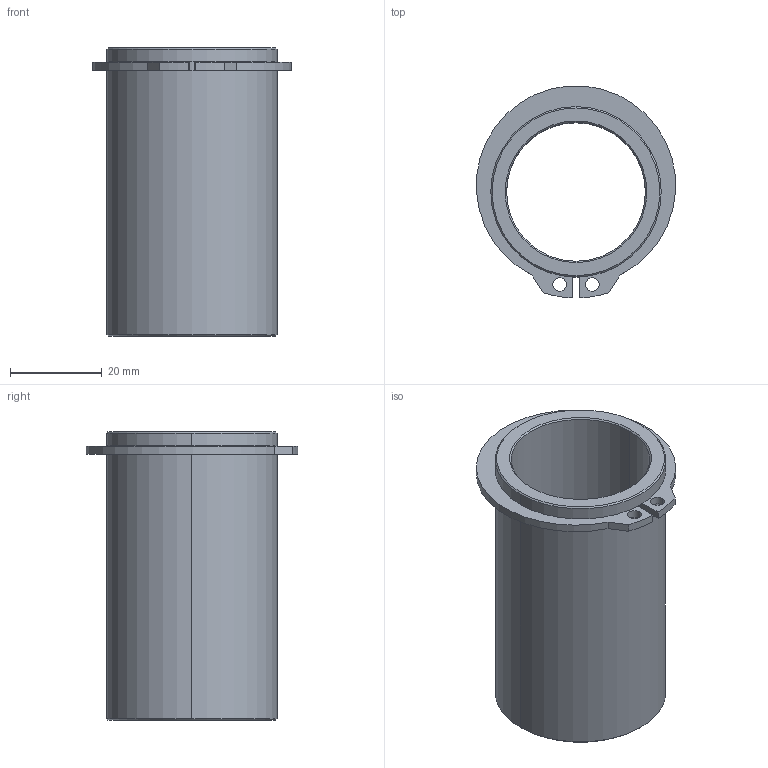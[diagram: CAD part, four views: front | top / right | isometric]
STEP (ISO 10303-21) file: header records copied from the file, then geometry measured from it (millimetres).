
FILE_DESCRIPTION((''),'2;1');
FILE_NAME('C13_030_063.stp','2008-12-17T15:07:03',(''),(''),'Mechanical Desktop 2009','Mechanical Desktop 2009',', , ');
FILE_SCHEMA(('CONFIG_CONTROL_DESIGN'));
Length unit declared in the file: millimetre
Products named in the file (2): Product; blmdl1
Assembly tree (1 placements, depth 2):
  Product
    blmdl1
Bounding box: 43.48 x 46.28 x 63 mm (x, y, z)
Volume: 23802.2 mm3; surface area: 15692.3 mm2
Topology: 2 solids, 2 shells, 34 faces, 76 edges, 48 vertices
Faces by surface type: cylinder 16, plane 10, cone 8
Entity records: 1075 total; most frequent: DIRECTION 188, CARTESIAN_POINT 160, ORIENTED_EDGE 152, AXIS2_PLACEMENT_3D 76, EDGE_CURVE 76, VERTEX_POINT 48, EDGE_LOOP 42, CIRCLE 40
